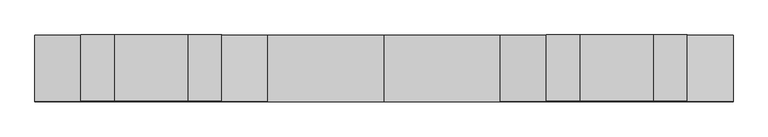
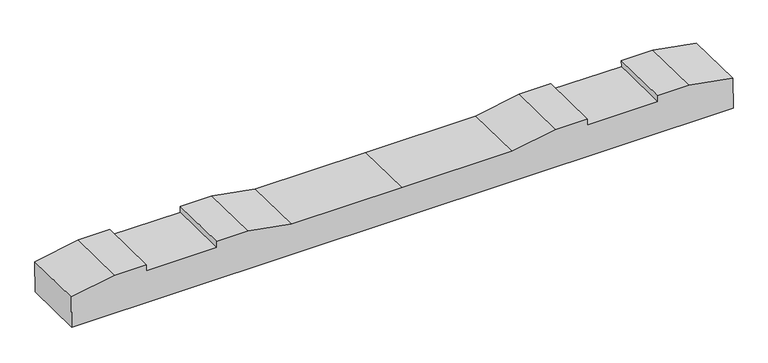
"""IFC4 building model written with IfcOpenShell, lengths in millimetres: proxy geometry, 轨枕-立面角度 : 轨枕-立面角度."""

from ifc_helpers import new_model, si_unit, frame, origin, place, context, project, spatial, polyline, outline, extrude, source, transform, mapped, element, save


def generic_models_61b4f6cf(model_context):
    return source(origin(), model_context, "Body", "SweptSolid", [
        extrude(outline(polyline([(0.0, 0.0), (0.0, -100.020689), (-137.8834664, -124.5), (-237.8834664, -124.5), (-237.8834664, -104.5), (-461.8834664, -104.5), (-461.8834664, -124.5), (-561.8834664, -124.5), (-699.8834664, -100.0), (-1049.8834664, -100.0), (-1399.8834664, -100.0), (-1537.8834664, -124.5), (-1637.8834664, -124.5), (-1637.8834664, -104.5), (-1861.8834664, -104.5), (-1861.8834664, -124.5), (-1961.8834664, -124.5), (-2099.7669328, -100.020689), (-2099.7669328, 0.0), (0.0, 0.0)])), frame((-1049.8834664, 98.5956953, -105.8259839), z_axis=(0.0, -0.9999108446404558, 0.013353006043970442), x_axis=(-1.0, 0.0, 0.0)), (0.0, 0.0, 1.0), 200.0),
    ])


if __name__ == "__main__":
    model = new_model("IFC4")
    model_context = context("Model", 3, world=origin())
    ifc_project = project(units=[si_unit("LENGTHUNIT", "METRE", prefix="MILLI")], contexts=[model_context])
    site = spatial("IfcSite", under=ifc_project)
    building = spatial("IfcBuilding", under=site)
    placement = place(None, origin())
    generic_models_shape = generic_models_61b4f6cf(model_context)
    element("IfcBuildingElementProxy", 1, Name="轨枕-立面角度 : 轨枕-立面角度", ObjectType="轨枕-立面角度 : 轨枕-立面角度", at=placement, inside=building, context=model_context, shape_type="MappedRepresentation", body=[
        mapped(generic_models_shape, transform((0.0, 0.0, 0.0), x_axis=(1.0, 0.0, 0.0), y_axis=(0.0, 1.0, 0.0), z_axis=(0.0, 0.0, 1.0))),
    ])
    save(model, "model.ifc")
